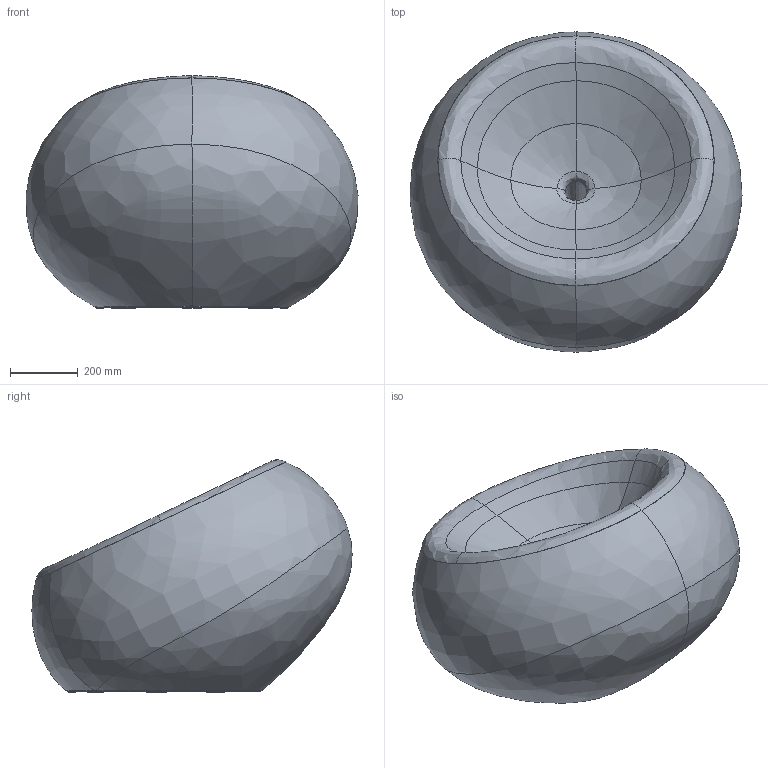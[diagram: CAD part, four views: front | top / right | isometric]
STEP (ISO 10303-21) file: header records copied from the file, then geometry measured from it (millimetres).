
FILE_DESCRIPTION(('CATIA V5 STEP Exchange','CAx-IF Rec.Pracs.--- Model Styling and Organization---1.5--- 2016-08-15','CAx-IF Rec.Pracs.---Supplemental Geometry---1.0---2011-11-01','CAx-IF Rec.Pracs.--- Composite Materials ---3.4---2017-06-13','CAx-IF Rec.Pracs.---Tessellated 3D Geometry---1.0---2015-12-17'),'2;1');
FILE_NAME('C:\Users\samatori\Desktop\3D-Web-2022\Poltrona-BOOM\Poltrona-BOOM.stp','2022-11-07T14:16:37+00:00',('none'),('none'),'CATIA Version 5-6 Release 2020 SP3','CATIA V5 STEP AP242 v2','none');
FILE_SCHEMA(('AP242_MANAGED_MODEL_BASED_3D_ENGINEERING_MIM_LF {1 0 10303 442 1 1 4}'));
Products named in the file (1): Part3
Bounding box: 982.86 x 948.11 x 687.69 mm (x, y, z)
Volume: 281186290.4 mm3; surface area: 2654078.9 mm2
Topology: 1 solids, 1 shells, 259 faces, 591 edges, 340 vertices
Faces by surface type: bspline 128, torus 54, cylinder 25, extrusion 24, plane 14, cone 12, revolution 2
Entity records: 56199 total; most frequent: CARTESIAN_POINT 51702, ORIENTED_EDGE 1178, EDGE_CURVE 589, B_SPLINE_CURVE_WITH_KNOTS 400, DIRECTION 395, VERTEX_POINT 340, EDGE_LOOP 269, ADVANCED_FACE 259
